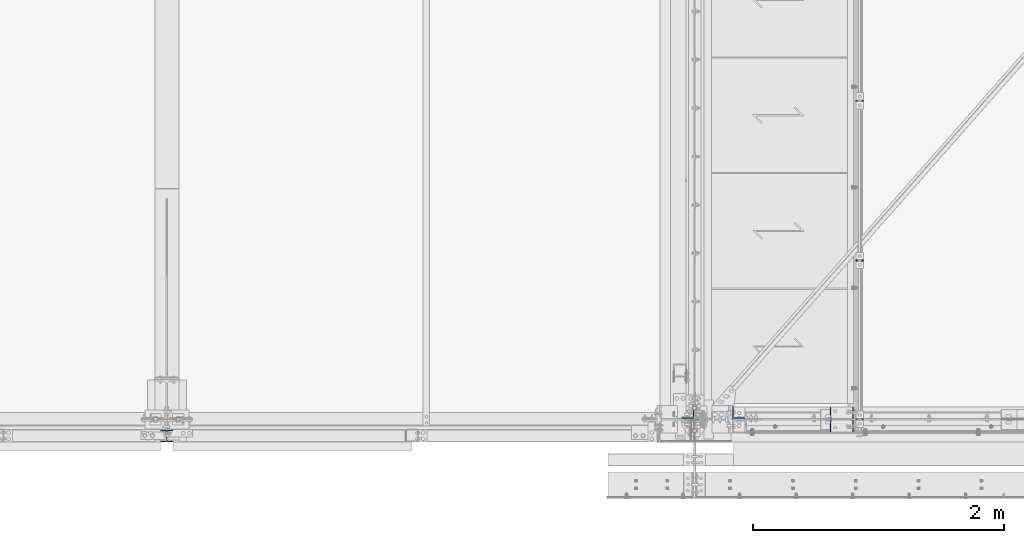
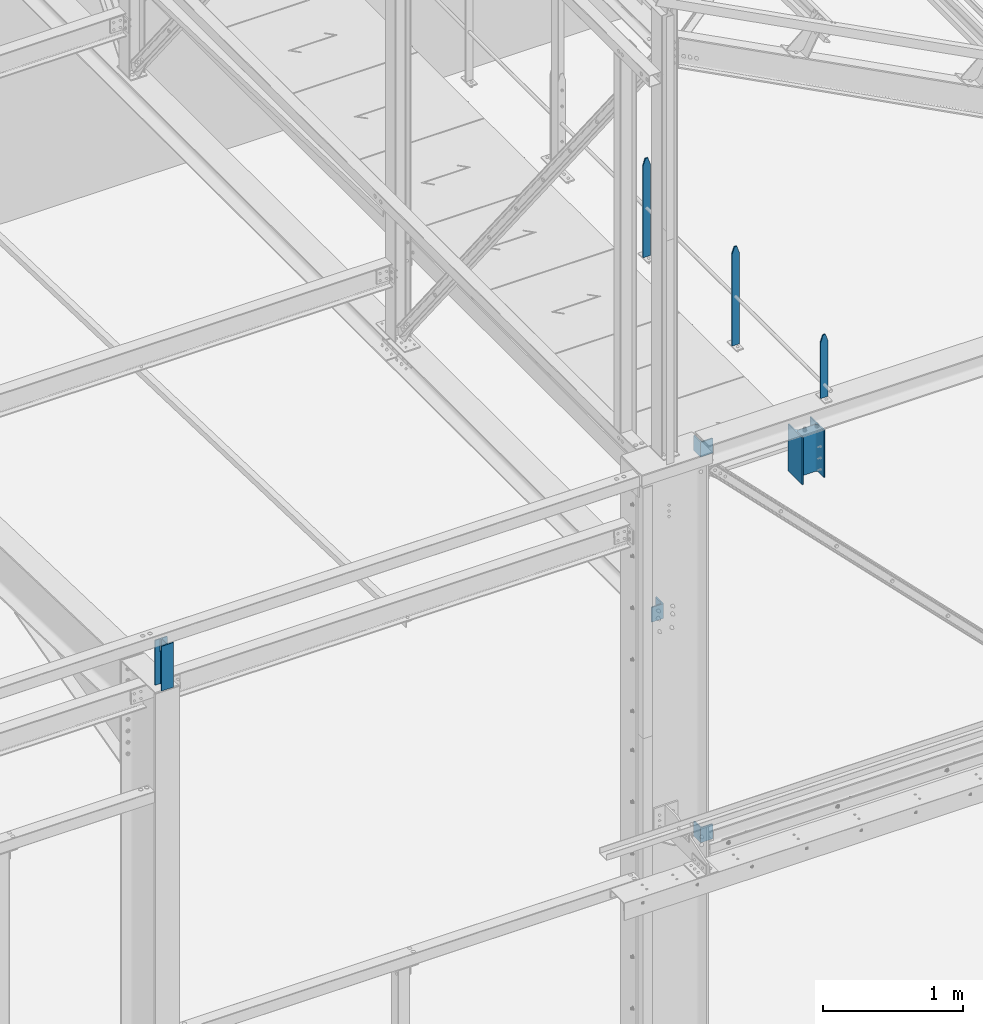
# One storey, part 21 of 362: 8 columns, 6 elements without a shape of their own.
"""IFC2X3 building model written with IfcOpenShell, lengths in millimetres."""

from ifc_helpers import new_model, si_unit, frame, origin_with_axes, origin_2d_with_axis, place, context, subcontext, project, spatial, rectangle, i_section, l_section, extrude, clip, halfspace, material, type_object, element, aggregate, save


model = new_model("IFC2X3")

# Units and contexts
model_context = context("Model", 3, precision=1e-05, world=origin_with_axes())
body_context = subcontext(model_context, "Body", "Model", "MODEL_VIEW")
ifc_project = project(units=[si_unit("LENGTHUNIT", "METRE", prefix="MILLI"), si_unit("AREAUNIT", "SQUARE_METRE"), si_unit("VOLUMEUNIT", "CUBIC_METRE"), si_unit("MASSUNIT", "GRAM", prefix="KILO"), si_unit("TIMEUNIT", "SECOND"), si_unit("PLANEANGLEUNIT", "RADIAN"), si_unit("SOLIDANGLEUNIT", "STERADIAN"), si_unit("THERMODYNAMICTEMPERATUREUNIT", "DEGREE_CELSIUS"), si_unit("LUMINOUSINTENSITYUNIT", "LUMEN")], contexts=[model_context])

# Site, building, storey
site_placement = place(None, origin_with_axes())
site = spatial("IfcSite", under=ifc_project, at=site_placement, Name="Undefined", CompositionType="ELEMENT")
building_placement = place(site_placement, origin_with_axes())
building = spatial("IfcBuilding", under=site, at=building_placement, Name="Undefined", CompositionType="ELEMENT")
storey_placement = place(building_placement, origin_with_axes())
storey = spatial("IfcBuildingStorey", under=building, at=storey_placement, Name="Undefined", CompositionType="ELEMENT", Elevation=0.0)

# Assembly, columns
assembly_1_placement = place(storey_placement, origin_with_axes())
assembly_1 = element("IfcElementAssembly", 1, at=assembly_1_placement, inside=storey, Name="MAIN COURANTE", AssemblyPlace="NOTDEFINED", PredefinedType="NOTDEFINED")
ifc_material_1 = material(Name="Undefined/S235-E24")
column_type_1 = type_object("IfcColumnType", Name="PL10*60", PredefinedType="NOTDEFINED")
column_1_placement = place(assembly_1_placement, frame((13993.9998835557, 0.0, 8560.00000822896), z_axis=(0.0, 0.0, 1.0), x_axis=(1.0, 0.0, 0.0)))
column_1 = element("IfcColumn", 2, at=column_1_placement, type_object=column_type_1, material=ifc_material_1, Name="MONTANT", ObjectType="PL10*60", context=body_context, shape_type="Clipping", body=[
    clip(clip(extrude(rectangle(XDim=10.0, YDim=60.0, at=origin_2d_with_axis()), frame((0.0, 0.0, 547.599997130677), z_axis=(0.0, 0.0, -1.0), x_axis=(0.0, 1.0, 0.0)), (0.0, 0.0, 1.0), 547.6), halfspace(frame((30.0000001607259, -4.99999971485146, 487.599997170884), z_axis=(0.948683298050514, 0.0, 0.316227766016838), x_axis=(-0.316227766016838, 0.0, 0.948683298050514)), False)), halfspace(frame((-29.9999998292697, 5.00000034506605, 487.599997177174), z_axis=(-0.948683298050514, 0.0, 0.316227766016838), x_axis=(0.316227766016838, 0.0, 0.948683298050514)), False)),
])
column_2_placement = place(assembly_1_placement, frame((13993.9998835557, 1265.00344717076, 8250.00000822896), z_axis=(0.0, 0.0, 1.0), x_axis=(1.0, 0.0, 0.0)))
column_2 = element("IfcColumn", 3, at=column_2_placement, type_object=column_type_1, material=ifc_material_1, Name="MONTANT", ObjectType="PL10*60", context=body_context, shape_type="Clipping", body=[
    clip(clip(extrude(rectangle(XDim=10.0, YDim=60.0, at=origin_2d_with_axis()), frame((0.0, 0.0, 857.599997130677), z_axis=(0.0, 0.0, -1.0), x_axis=(0.0, 1.0, 0.0)), (0.0, 0.0, 1.0), 857.6), halfspace(frame((30.0000001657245, -5.000000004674, 797.599997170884), z_axis=(0.948683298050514, 0.0, 0.316227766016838), x_axis=(-0.316227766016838, 0.0, 0.948683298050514)), False)), halfspace(frame((-29.9999998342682, 4.99999999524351, 797.599997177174), z_axis=(-0.948683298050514, 0.0, 0.316227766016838), x_axis=(0.316227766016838, 0.0, 0.948683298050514)), False)),
])
column_3_placement = place(assembly_1_placement, frame((13993.9998846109, 2535.00344717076, 8250.00000735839), z_axis=(0.0, 0.0, 1.0), x_axis=(1.0, 0.0, 0.0)))
column_3 = element("IfcColumn", 4, at=column_3_placement, type_object=column_type_1, material=ifc_material_1, Name="MONTANT", ObjectType="PL10*60", context=body_context, shape_type="Clipping", body=[
    clip(clip(extrude(rectangle(XDim=10.0, YDim=60.0, at=origin_2d_with_axis()), frame((0.0, 0.0, 857.599997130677), z_axis=(0.0, 0.0, -1.0), x_axis=(0.0, 1.0, 0.0)), (0.0, 0.0, 1.0), 857.6), halfspace(frame((30.0000001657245, -5.000000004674, 797.599997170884), z_axis=(0.948683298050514, 0.0, 0.316227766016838), x_axis=(-0.316227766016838, 0.0, 0.948683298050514)), False)), halfspace(frame((-29.9999998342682, 4.99999999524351, 797.599997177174), z_axis=(-0.948683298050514, 0.0, 0.316227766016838), x_axis=(0.316227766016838, 0.0, 0.948683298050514)), False)),
])
aggregate(assembly_1, [column_1, column_2, column_3])

# Assembly, column
assembly_2_placement = place(storey_placement, origin_with_axes())
assembly_2 = element("IfcElementAssembly", 5, at=assembly_2_placement, inside=storey, AssemblyPlace="NOTDEFINED", PredefinedType="NOTDEFINED")
column_type_2 = type_object("IfcColumnType", Name="L100*10", PredefinedType="NOTDEFINED")
column_4_placement = place(assembly_2_placement, frame((12626.4999999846, 56.0022948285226, 7089.99987296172), z_axis=(0.0, 0.0, 1.0), x_axis=(0.0, 1.0, 0.0)))
column_4 = element("IfcColumn", 6, at=column_4_placement, type_object=column_type_2, material=ifc_material_1, Name="ATTACHE", ObjectType="L100*10", context=body_context, shape_type="SweptSolid", body=[
    extrude(l_section(Depth=100.0, Width=100.0, Thickness=10.0, FilletRadius=12.0, EdgeRadius=6.0, at=origin_2d_with_axis()), frame((0.0, 1.81898940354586e-12, 129.999999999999), z_axis=(0.0, 0.0, -1.0), x_axis=(0.0, 1.0, 0.0)), (0.0, 0.0, 1.0), 130.0),
])
aggregate(assembly_2, [column_4])

assembly_3_placement = place(storey_placement, origin_with_axes())
assembly_3 = element("IfcElementAssembly", 7, at=assembly_3_placement, inside=storey, AssemblyPlace="NOTDEFINED", PredefinedType="NOTDEFINED")
column_5_placement = place(assembly_3_placement, frame((13029.997437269, 53.500000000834, 8390.00002208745), z_axis=(0.0, 0.0, 1.0), x_axis=(1.0, 0.0, 0.0)))
column_5 = element("IfcColumn", 8, at=column_5_placement, type_object=column_type_2, material=ifc_material_1, Name="ATTACHE", ObjectType="L100*10", context=body_context, shape_type="SweptSolid", body=[
    extrude(l_section(Depth=100.0, Width=100.0, Thickness=10.0, FilletRadius=12.0, EdgeRadius=6.0, at=origin_2d_with_axis()), frame((0.0, 1.81898940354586e-12, 129.999999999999), z_axis=(0.0, 0.0, -1.0), x_axis=(0.0, 1.0, 0.0)), (0.0, 0.0, 1.0), 130.0),
])
aggregate(assembly_3, [column_5])

assembly_4_placement = place(storey_placement, origin_with_axes())
assembly_4 = element("IfcElementAssembly", 9, at=assembly_4_placement, inside=storey, AssemblyPlace="NOTDEFINED", PredefinedType="NOTDEFINED")
column_6_placement = place(assembly_4_placement, frame((13029.997437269, 53.500000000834, 5030.00085394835), z_axis=(0.0, 0.0, 1.0), x_axis=(1.0, 0.0, 0.0)))
column_6 = element("IfcColumn", 10, at=column_6_placement, type_object=column_type_2, material=ifc_material_1, Name="ATTACHE", ObjectType="L100*10", context=body_context, shape_type="SweptSolid", body=[
    extrude(l_section(Depth=100.0, Width=100.0, Thickness=10.0, FilletRadius=12.0, EdgeRadius=6.0, at=origin_2d_with_axis()), frame((0.0, 1.81898940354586e-12, 129.999999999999), z_axis=(0.0, 0.0, -1.0), x_axis=(0.0, 1.0, 0.0)), (0.0, 0.0, 1.0), 130.0),
])
aggregate(assembly_4, [column_6])

assembly_5_placement = place(storey_placement, origin_with_axes())
assembly_5 = element("IfcElementAssembly", 11, at=assembly_5_placement, inside=storey, Name="POTEAU", AssemblyPlace="NOTDEFINED", PredefinedType="NOTDEFINED")
ifc_material_2 = material(Name="Undefined/S275-E28")
column_type_3 = type_object("IfcColumnType", Name="HEA100", PredefinedType="NOTDEFINED")
column_7_placement = place(assembly_5_placement, frame((8480.0, -132.0, 8049.99544952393), z_axis=(0.0, 0.0, 1.0), x_axis=(0.0, 1.0, 0.0)))
column_7 = element("IfcColumn", 12, at=column_7_placement, type_object=column_type_3, material=ifc_material_2, Name="BAIONNETTE", ObjectType="HEA100", context=body_context, shape_type="Clipping", body=[
    clip(extrude(i_section(OverallWidth=100.0, OverallDepth=96.0, WebThickness=5.0, FlangeThickness=8.0, FilletRadius=12.0, at=origin_2d_with_axis()), frame((0.0, 0.0, 395.004550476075), z_axis=(0.0, 0.0, -1.0), x_axis=(0.0, 1.0, 0.0)), (0.0, 0.0, 1.0), 392.38), halfspace(frame((55.2953255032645, 0.0, 2.41509197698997), z_axis=(-0.0314107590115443, 0.0, -0.999506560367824), x_axis=(0.0, 1.0, 0.0)), False)),
])
aggregate(assembly_5, [column_7])

assembly_6_placement = place(storey_placement, origin_with_axes())
assembly_6 = element("IfcElementAssembly", 13, at=assembly_6_placement, inside=storey, Name="MONTANT", AssemblyPlace="NOTDEFINED", PredefinedType="NOTDEFINED")
column_type_4 = type_object("IfcColumnType", Name="HEA200", PredefinedType="NOTDEFINED")
column_8_placement = place(assembly_6_placement, frame((13851.4998857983, 0.0, 7940.0), z_axis=(0.0, 0.0, 1.0), x_axis=(-1.0, 0.0, 0.0)))
column_8 = element("IfcColumn", 14, at=column_8_placement, type_object=column_type_4, material=ifc_material_2, Name="MONTANT", ObjectType="HEA200", context=body_context, shape_type="SweptSolid", body=[
    extrude(i_section(OverallWidth=200.0, OverallDepth=190.0, WebThickness=6.5, FlangeThickness=10.0, FilletRadius=18.0, at=origin_2d_with_axis()), frame((0.0, 0.0, 409.995254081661), z_axis=(0.0, 0.0, -1.0), x_axis=(0.0, 1.0, 0.0)), (0.0, 0.0, 1.0), 410.0),
])
aggregate(assembly_6, [column_8])

save(model, "model.ifc")
